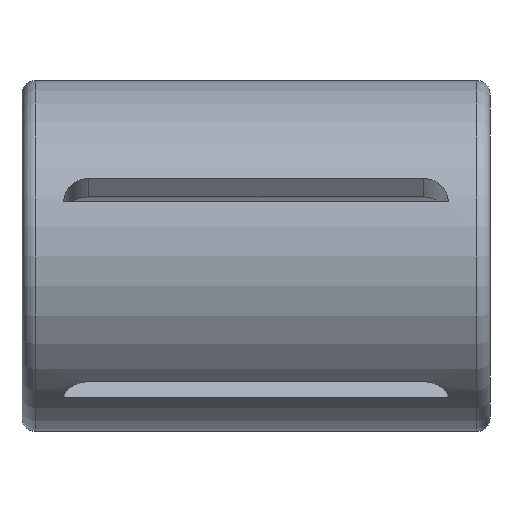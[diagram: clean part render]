
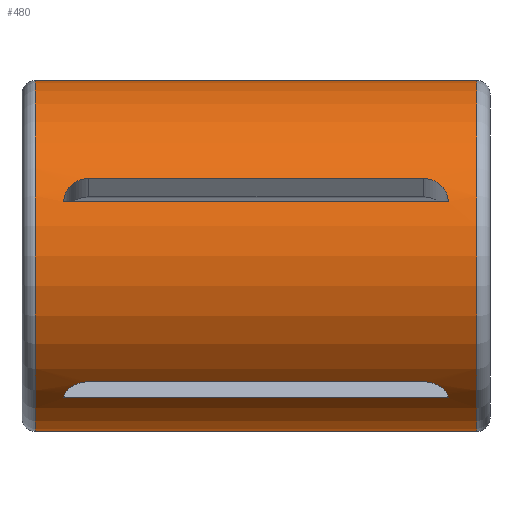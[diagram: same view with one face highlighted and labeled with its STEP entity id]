
A CAD part, front view. The second image highlights one B-rep face of the part: STEP entity #480.
In plain terms, the highlighted cylindrical face has radius 10.5 mm (diameter 21 mm), a full revolution.
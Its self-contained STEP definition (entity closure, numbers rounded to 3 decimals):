
#34=CIRCLE('',#520,10.5);
#35=CIRCLE('',#521,10.5);
#40=LINE('',#666,#80);
#41=LINE('',#674,#81);
#42=LINE('',#682,#82);
#43=LINE('',#690,#83);
#44=LINE('',#702,#84);
#45=LINE('',#710,#85);
#46=LINE('',#718,#86);
#47=LINE('',#726,#87);
#48=LINE('',#734,#88);
#49=LINE('',#742,#89);
#80=VECTOR('',#555,1000.);
#81=VECTOR('',#556,1000.);
#82=VECTOR('',#557,1000.);
#83=VECTOR('',#558,1000.);
#84=VECTOR('',#563,1000.);
#85=VECTOR('',#564,1000.);
#86=VECTOR('',#565,1000.);
#87=VECTOR('',#566,1000.);
#88=VECTOR('',#567,1000.);
#89=VECTOR('',#568,1000.);
#120=ORIENTED_EDGE('',*,*,#252,.T.);
#121=ORIENTED_EDGE('',*,*,#253,.T.);
#122=ORIENTED_EDGE('',*,*,#254,.T.);
#123=ORIENTED_EDGE('',*,*,#255,.T.);
#124=ORIENTED_EDGE('',*,*,#256,.T.);
#125=ORIENTED_EDGE('',*,*,#257,.T.);
#126=ORIENTED_EDGE('',*,*,#258,.T.);
#127=ORIENTED_EDGE('',*,*,#259,.T.);
#128=ORIENTED_EDGE('',*,*,#260,.T.);
#129=ORIENTED_EDGE('',*,*,#261,.T.);
#130=ORIENTED_EDGE('',*,*,#262,.T.);
#131=ORIENTED_EDGE('',*,*,#263,.T.);
#132=ORIENTED_EDGE('',*,*,#264,.T.);
#133=ORIENTED_EDGE('',*,*,#265,.T.);
#134=ORIENTED_EDGE('',*,*,#266,.T.);
#135=ORIENTED_EDGE('',*,*,#267,.T.);
#136=ORIENTED_EDGE('',*,*,#268,.T.);
#137=ORIENTED_EDGE('',*,*,#269,.T.);
#138=ORIENTED_EDGE('',*,*,#270,.T.);
#139=ORIENTED_EDGE('',*,*,#271,.T.);
#140=ORIENTED_EDGE('',*,*,#272,.T.);
#141=ORIENTED_EDGE('',*,*,#273,.T.);
#252=EDGE_CURVE('',#318,#319,#364,.T.);
#253=EDGE_CURVE('',#319,#320,#40,.F.);
#254=EDGE_CURVE('',#320,#321,#365,.T.);
#255=EDGE_CURVE('',#321,#318,#41,.T.);
#256=EDGE_CURVE('',#322,#323,#366,.T.);
#257=EDGE_CURVE('',#323,#324,#42,.F.);
#258=EDGE_CURVE('',#324,#325,#367,.T.);
#259=EDGE_CURVE('',#325,#322,#43,.T.);
#260=EDGE_CURVE('',#326,#326,#34,.T.);
#261=EDGE_CURVE('',#327,#327,#35,.F.);
#262=EDGE_CURVE('',#328,#329,#368,.T.);
#263=EDGE_CURVE('',#329,#330,#44,.F.);
#264=EDGE_CURVE('',#330,#331,#369,.T.);
#265=EDGE_CURVE('',#331,#328,#45,.T.);
#266=EDGE_CURVE('',#332,#333,#370,.T.);
#267=EDGE_CURVE('',#333,#334,#46,.F.);
#268=EDGE_CURVE('',#334,#335,#371,.T.);
#269=EDGE_CURVE('',#335,#332,#47,.T.);
#270=EDGE_CURVE('',#336,#337,#372,.T.);
#271=EDGE_CURVE('',#337,#338,#48,.F.);
#272=EDGE_CURVE('',#338,#339,#373,.T.);
#273=EDGE_CURVE('',#339,#336,#49,.T.);
#318=VERTEX_POINT('',#664);
#319=VERTEX_POINT('',#665);
#320=VERTEX_POINT('',#667);
#321=VERTEX_POINT('',#673);
#322=VERTEX_POINT('',#680);
#323=VERTEX_POINT('',#681);
#324=VERTEX_POINT('',#683);
#325=VERTEX_POINT('',#689);
#326=VERTEX_POINT('',#692);
#327=VERTEX_POINT('',#694);
#328=VERTEX_POINT('',#700);
#329=VERTEX_POINT('',#701);
#330=VERTEX_POINT('',#703);
#331=VERTEX_POINT('',#709);
#332=VERTEX_POINT('',#716);
#333=VERTEX_POINT('',#717);
#334=VERTEX_POINT('',#719);
#335=VERTEX_POINT('',#725);
#336=VERTEX_POINT('',#732);
#337=VERTEX_POINT('',#733);
#338=VERTEX_POINT('',#735);
#339=VERTEX_POINT('',#741);
#364=B_SPLINE_CURVE_WITH_KNOTS('',3,(#659,#660,#661,#662,#663),
 .UNSPECIFIED.,.F.,.F.,(4,1,4),(0.,0.001,
0.002),.UNSPECIFIED.);
#365=B_SPLINE_CURVE_WITH_KNOTS('',3,(#668,#669,#670,#671,#672),
 .UNSPECIFIED.,.F.,.F.,(4,1,4),(0.,0.001,
0.002),.UNSPECIFIED.);
#366=B_SPLINE_CURVE_WITH_KNOTS('',3,(#675,#676,#677,#678,#679),
 .UNSPECIFIED.,.F.,.F.,(4,1,4),(0.,0.001,
0.002),.UNSPECIFIED.);
#367=B_SPLINE_CURVE_WITH_KNOTS('',3,(#684,#685,#686,#687,#688),
 .UNSPECIFIED.,.F.,.F.,(4,1,4),(0.,0.001,0.002),
 .UNSPECIFIED.);
#368=B_SPLINE_CURVE_WITH_KNOTS('',3,(#695,#696,#697,#698,#699),
 .UNSPECIFIED.,.F.,.F.,(4,1,4),(0.,0.001,
0.002),.UNSPECIFIED.);
#369=B_SPLINE_CURVE_WITH_KNOTS('',3,(#704,#705,#706,#707,#708),
 .UNSPECIFIED.,.F.,.F.,(4,1,4),(0.,0.001,0.002),
 .UNSPECIFIED.);
#370=B_SPLINE_CURVE_WITH_KNOTS('',3,(#711,#712,#713,#714,#715),
 .UNSPECIFIED.,.F.,.F.,(4,1,4),(0.,0.001,
0.002),.UNSPECIFIED.);
#371=B_SPLINE_CURVE_WITH_KNOTS('',3,(#720,#721,#722,#723,#724),
 .UNSPECIFIED.,.F.,.F.,(4,1,4),(0.,0.001,0.002),
 .UNSPECIFIED.);
#372=B_SPLINE_CURVE_WITH_KNOTS('',3,(#727,#728,#729,#730,#731),
 .UNSPECIFIED.,.F.,.F.,(4,1,4),(0.,0.001,
0.002),.UNSPECIFIED.);
#373=B_SPLINE_CURVE_WITH_KNOTS('',3,(#736,#737,#738,#739,#740),
 .UNSPECIFIED.,.F.,.F.,(4,1,4),(0.,0.001,0.002),
 .UNSPECIFIED.);
#384=EDGE_LOOP('',(#120,#121,#122,#123));
#385=EDGE_LOOP('',(#124,#125,#126,#127));
#386=EDGE_LOOP('',(#128));
#387=EDGE_LOOP('',(#129));
#388=EDGE_LOOP('',(#130,#131,#132,#133));
#389=EDGE_LOOP('',(#134,#135,#136,#137));
#390=EDGE_LOOP('',(#138,#139,#140,#141));
#426=FACE_BOUND('',#384,.T.);
#427=FACE_BOUND('',#385,.T.);
#428=FACE_BOUND('',#386,.T.);
#429=FACE_BOUND('',#387,.T.);
#430=FACE_BOUND('',#388,.T.);
#431=FACE_BOUND('',#389,.T.);
#432=FACE_BOUND('',#390,.T.);
#468=CYLINDRICAL_SURFACE('',#519,10.5);
#480=ADVANCED_FACE('',(#426,#427,#428,#429,#430,#431,#432),#468,.T.);
#519=AXIS2_PLACEMENT_3D('',#658,#553,#554);
#520=AXIS2_PLACEMENT_3D('',#691,#559,#560);
#521=AXIS2_PLACEMENT_3D('',#693,#561,#562);
#553=DIRECTION('',(-1.,0.,0.));
#554=DIRECTION('',(0.,0.,1.));
#555=DIRECTION('',(-1.,0.,0.));
#556=DIRECTION('',(-1.,0.,0.));
#557=DIRECTION('',(-1.,0.,0.));
#558=DIRECTION('',(-1.,0.,0.));
#559=DIRECTION('',(1.,0.,0.));
#560=DIRECTION('',(0.,0.,-1.));
#561=DIRECTION('',(1.,0.,0.));
#562=DIRECTION('',(0.,0.,-1.));
#563=DIRECTION('',(-1.,0.,0.));
#564=DIRECTION('',(-1.,0.,0.));
#565=DIRECTION('',(-1.,0.,0.));
#566=DIRECTION('',(-1.,0.,0.));
#567=DIRECTION('',(-1.,0.,0.));
#568=DIRECTION('',(-1.,0.,0.));
#658=CARTESIAN_POINT('',(14.,0.,0.));
#659=CARTESIAN_POINT('',(-11.5,-6.172,-8.495));
#660=CARTESIAN_POINT('',(-11.5,-6.493,-8.261));
#661=CARTESIAN_POINT('',(-11.174,-7.089,-7.762));
#662=CARTESIAN_POINT('',(-10.397,-7.322,-7.526));
#663=CARTESIAN_POINT('',(-10.,-7.322,-7.526));
#664=CARTESIAN_POINT('',(-11.5,-6.172,-8.495));
#665=CARTESIAN_POINT('',(-10.,-7.322,-7.526));
#666=CARTESIAN_POINT('',(14.,-7.322,-7.526));
#667=CARTESIAN_POINT('',(10.,-7.322,-7.526));
#668=CARTESIAN_POINT('',(10.,-7.322,-7.526));
#669=CARTESIAN_POINT('',(10.397,-7.322,-7.526));
#670=CARTESIAN_POINT('',(11.172,-7.09,-7.761));
#671=CARTESIAN_POINT('',(11.5,-6.493,-8.262));
#672=CARTESIAN_POINT('',(11.5,-6.172,-8.495));
#673=CARTESIAN_POINT('',(11.5,-6.172,-8.495));
#674=CARTESIAN_POINT('',(14.,-6.172,-8.495));
#675=CARTESIAN_POINT('',(-11.5,9.986,3.245));
#676=CARTESIAN_POINT('',(-11.5,10.109,2.867));
#677=CARTESIAN_POINT('',(-11.174,10.297,2.113));
#678=CARTESIAN_POINT('',(-10.397,10.347,1.785));
#679=CARTESIAN_POINT('',(-10.,10.347,1.785));
#680=CARTESIAN_POINT('',(-11.5,9.986,3.245));
#681=CARTESIAN_POINT('',(-10.,10.347,1.785));
#682=CARTESIAN_POINT('',(14.,10.347,1.785));
#683=CARTESIAN_POINT('',(10.,10.347,1.785));
#684=CARTESIAN_POINT('',(10.,10.347,1.785));
#685=CARTESIAN_POINT('',(10.397,10.347,1.785));
#686=CARTESIAN_POINT('',(11.172,10.298,2.112));
#687=CARTESIAN_POINT('',(11.5,10.109,2.867));
#688=CARTESIAN_POINT('',(11.5,9.986,3.245));
#689=CARTESIAN_POINT('',(11.5,9.986,3.245));
#690=CARTESIAN_POINT('',(14.,9.986,3.245));
#691=CARTESIAN_POINT('',(-13.2,0.,0.));
#692=CARTESIAN_POINT('',(-13.2,0.,-10.5));
#693=CARTESIAN_POINT('',(13.2,0.,0.));
#694=CARTESIAN_POINT('',(13.2,0.,-10.5));
#695=CARTESIAN_POINT('',(-11.5,0.,10.5));
#696=CARTESIAN_POINT('',(-11.5,0.397,10.5));
#697=CARTESIAN_POINT('',(-11.174,1.172,10.446));
#698=CARTESIAN_POINT('',(-10.397,1.5,10.392));
#699=CARTESIAN_POINT('',(-10.,1.5,10.392));
#700=CARTESIAN_POINT('',(-11.5,0.,10.5));
#701=CARTESIAN_POINT('',(-10.,1.5,10.392));
#702=CARTESIAN_POINT('',(14.,1.5,10.392));
#703=CARTESIAN_POINT('',(10.,1.5,10.392));
#704=CARTESIAN_POINT('',(10.,1.5,10.392));
#705=CARTESIAN_POINT('',(10.397,1.5,10.392));
#706=CARTESIAN_POINT('',(11.172,1.174,10.446));
#707=CARTESIAN_POINT('',(11.5,0.397,10.5));
#708=CARTESIAN_POINT('',(11.5,0.,10.5));
#709=CARTESIAN_POINT('',(11.5,0.,10.5));
#710=CARTESIAN_POINT('',(14.,0.,10.5));
#711=CARTESIAN_POINT('',(-11.5,6.172,-8.495));
#712=CARTESIAN_POINT('',(-11.5,5.851,-8.728));
#713=CARTESIAN_POINT('',(-11.174,5.192,-9.14));
#714=CARTESIAN_POINT('',(-10.397,4.895,-9.289));
#715=CARTESIAN_POINT('',(-10.,4.895,-9.289));
#716=CARTESIAN_POINT('',(-11.5,6.172,-8.495));
#717=CARTESIAN_POINT('',(-10.,4.895,-9.289));
#718=CARTESIAN_POINT('',(14.,4.895,-9.289));
#719=CARTESIAN_POINT('',(10.,4.895,-9.289));
#720=CARTESIAN_POINT('',(10.,4.895,-9.289));
#721=CARTESIAN_POINT('',(10.397,4.895,-9.289));
#722=CARTESIAN_POINT('',(11.172,5.191,-9.141));
#723=CARTESIAN_POINT('',(11.5,5.851,-8.728));
#724=CARTESIAN_POINT('',(11.5,6.172,-8.495));
#725=CARTESIAN_POINT('',(11.5,6.172,-8.495));
#726=CARTESIAN_POINT('',(14.,6.172,-8.495));
#727=CARTESIAN_POINT('',(-11.5,-9.986,3.245));
#728=CARTESIAN_POINT('',(-11.5,-9.864,3.622));
#729=CARTESIAN_POINT('',(-11.174,-9.573,4.343));
#730=CARTESIAN_POINT('',(-10.397,-9.42,4.638));
#731=CARTESIAN_POINT('',(-10.,-9.42,4.638));
#732=CARTESIAN_POINT('',(-11.5,-9.986,3.245));
#733=CARTESIAN_POINT('',(-10.,-9.42,4.638));
#734=CARTESIAN_POINT('',(14.,-9.42,4.638));
#735=CARTESIAN_POINT('',(10.,-9.42,4.638));
#736=CARTESIAN_POINT('',(10.,-9.42,4.638));
#737=CARTESIAN_POINT('',(10.397,-9.42,4.638));
#738=CARTESIAN_POINT('',(11.172,-9.572,4.344));
#739=CARTESIAN_POINT('',(11.5,-9.864,3.622));
#740=CARTESIAN_POINT('',(11.5,-9.986,3.245));
#741=CARTESIAN_POINT('',(11.5,-9.986,3.245));
#742=CARTESIAN_POINT('',(14.,-9.986,3.245));
